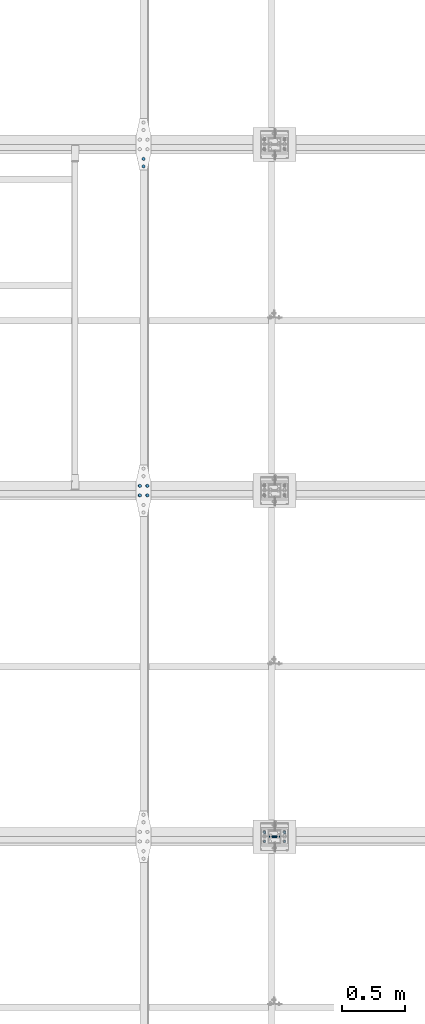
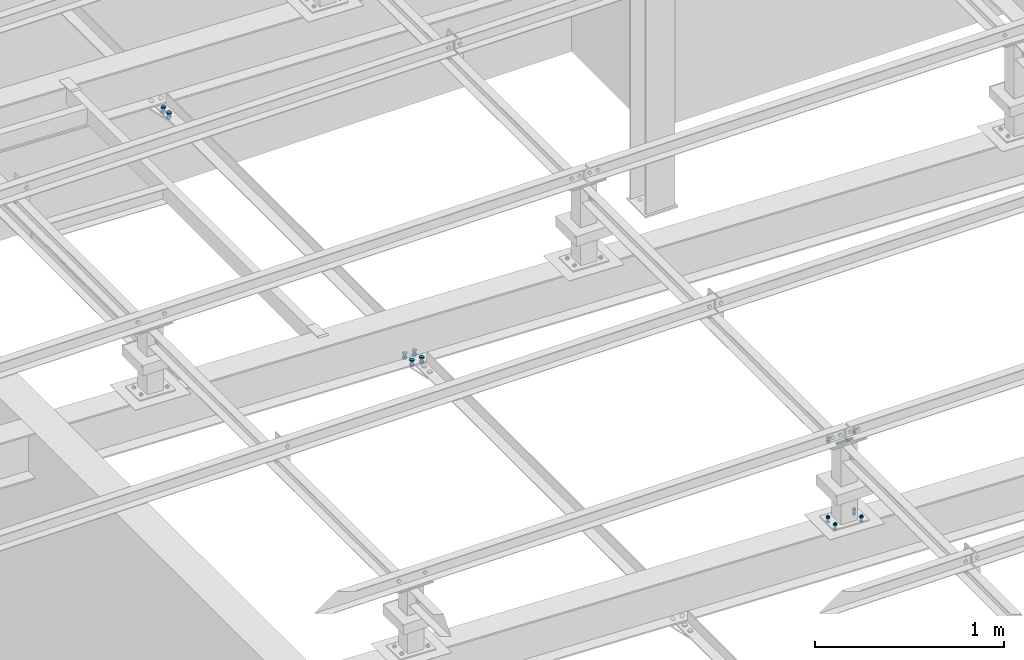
# One storey, part 188 of 3134: 5 mechanical fasteners, 4 elements without a shape of their own.
"""IFC2X3 building model written with IfcOpenShell, lengths in millimetres."""

from ifc_helpers import new_model, si_unit, frame, origin_with_axes, place, context, subcontext, project, spatial, faceted_brep, source, transform, mapped, material, type_object, element, aggregate, save


model = new_model("IFC2X3")

# Units and contexts
model_context = context("Model", 3, precision=1e-05, world=origin_with_axes())
body_context = subcontext(model_context, "Body", "Model", "MODEL_VIEW")
ifc_project = project(units=[si_unit("LENGTHUNIT", "METRE", prefix="MILLI"), si_unit("AREAUNIT", "SQUARE_METRE"), si_unit("VOLUMEUNIT", "CUBIC_METRE"), si_unit("MASSUNIT", "GRAM", prefix="KILO"), si_unit("TIMEUNIT", "SECOND"), si_unit("PLANEANGLEUNIT", "RADIAN"), si_unit("SOLIDANGLEUNIT", "STERADIAN"), si_unit("THERMODYNAMICTEMPERATUREUNIT", "DEGREE_CELSIUS"), si_unit("LUMINOUSINTENSITYUNIT", "LUMEN")], contexts=[model_context])

# Site, building, storey
site_placement = place(None, origin_with_axes())
site = spatial("IfcSite", under=ifc_project, at=site_placement, CompositionType="ELEMENT")
building_placement = place(site_placement, origin_with_axes())
building = spatial("IfcBuilding", under=site, at=building_placement, Name="Undefined", CompositionType="ELEMENT")
storey_placement = place(building_placement, origin_with_axes())
storey = spatial("IfcBuildingStorey", under=building, at=storey_placement, Name="Undefined", CompositionType="ELEMENT", Elevation=0.0)

# Assembly, mechanical fastener
assembly_1_placement = place(storey_placement, origin_with_axes())
assembly_1 = element("IfcElementAssembly", 1, at=assembly_1_placement, inside=storey, AssemblyPlace="NOTDEFINED", PredefinedType="RIGID_FRAME")
ifc_material = material(Name="8.8")
mechanical_fastener_type = type_object("IfcMechanicalFastenerType", Name="Bolt assembly")
shared_shape_1 = source(origin_with_axes(), body_context, "Body", "Brep", [
    faceted_brep([(10.9696551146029, -14.0, 0.0), (5.48482755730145, -14.0, 9.5), (-5.48482755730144, -14.0, 9.5), (-10.9696551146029, -14.0, 1.34339530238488e-15), (-5.48482755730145, -14.0, -9.5), (5.48482755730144, -14.0, -9.50000000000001), (5.48482755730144, -6.0, -9.50000000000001), (-5.48482755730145, -6.0, -9.5), (-10.9696551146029, -6.0, 1.34339530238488e-15), (-5.48482755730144, -6.0, 9.5), (5.48482755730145, -6.0, 9.5), (10.9696551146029, -6.0, 0.0), (6.0, -6.0, 0.0), (5.19615242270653, -6.0, 3.00000000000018), (2.99999999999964, -6.0, 5.19615242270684), (-6.21801588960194e-13, -6.0, 6.0), (-3.00000000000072, -6.0, 5.19615242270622), (-5.19615242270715, -6.0, 2.9999999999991), (-6.0, -6.0, -1.24360317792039e-12), (-5.19615242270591, -6.0, -3.00000000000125), (-2.99999999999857, -6.0, -5.19615242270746), (1.85874342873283e-12, -6.0, -6.0), (3.00000000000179, -6.0, -5.1961524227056), (5.19615242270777, -6.0, -2.99999999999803), (5.19615242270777, 24.0, -2.99999999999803), (3.00000000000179, 24.0, -5.1961524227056), (1.85874342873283e-12, 24.0, -6.0), (-2.99999999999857, 24.0, -5.19615242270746), (-5.19615242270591, 24.0, -3.00000000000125), (-6.0, 24.0, -1.24360317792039e-12), (-5.19615242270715, 24.0, 2.9999999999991), (-3.00000000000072, 24.0, 5.19615242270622), (-6.21801588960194e-13, 24.0, 6.0), (2.99999999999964, 24.0, 5.19615242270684), (5.19615242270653, 24.0, 3.00000000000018), (6.0, 24.0, 0.0), (10.9696551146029, 6.00000000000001, 0.0), (5.48482755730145, 6.00000000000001, 9.5), (-5.48482755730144, 6.00000000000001, 9.5), (-10.9696551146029, 6.00000000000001, 1.34339530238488e-15), (-5.48482755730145, 6.00000000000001, -9.5), (5.48482755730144, 6.00000000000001, -9.50000000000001), (5.48482755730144, 16.0, -9.50000000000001), (-5.48482755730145, 16.0, -9.5), (-10.9696551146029, 16.0, 1.34339530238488e-15), (-5.48482755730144, 16.0, 9.5), (5.48482755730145, 16.0, 9.5), (10.9696551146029, 16.0, 0.0)], [[[0, 1, 2, 3, 4, 5]], [[6, 7, 8, 9, 10, 11]], [[0, 11, 10, 1]], [[1, 10, 9, 2]], [[2, 9, 8, 3]], [[3, 8, 7, 4]], [[4, 7, 6, 5]], [[5, 6, 11, 0]], [[12, 13, 14, 15, 16, 17, 18, 19, 20, 21, 22, 23]], [[24, 25, 26, 27, 28, 29, 30, 31, 32, 33, 34, 35]], [[12, 35, 34, 13]], [[13, 34, 33, 14]], [[14, 33, 32, 15]], [[15, 32, 31, 16]], [[16, 31, 30, 17]], [[17, 30, 29, 18]], [[18, 29, 28, 19]], [[19, 28, 27, 20]], [[20, 27, 26, 21]], [[21, 26, 25, 22]], [[22, 25, 24, 23]], [[23, 24, 35, 12]], [[36, 37, 38, 39, 40, 41]], [[42, 43, 44, 45, 46, 47]], [[36, 47, 46, 37]], [[37, 46, 45, 38]], [[38, 45, 44, 39]], [[39, 44, 43, 40]], [[40, 43, 42, 41]], [[41, 42, 47, 36]]]),
    faceted_brep([(7.0, -0.1, 0.0), (6.06217782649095, -0.1, 3.50000000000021), (3.49999999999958, -0.1, 6.06217782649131), (-7.25435187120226e-13, -0.1, 7.0), (-3.50000000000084, -0.1, 6.06217782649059), (-6.06217782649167, -0.1, 3.49999999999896), (-7.0, -0.1, -1.45087037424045e-12), (-6.06217782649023, -0.1, -3.50000000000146), (-3.49999999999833, -0.1, -6.06217782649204), (2.1685340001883e-12, -0.1, -7.0), (3.50000000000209, -0.1, -6.06217782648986), (6.0621778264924, -0.1, -3.4999999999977), (6.0621778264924, 6.00000000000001, -3.4999999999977), (3.50000000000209, 6.00000000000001, -6.06217782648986), (2.1685340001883e-12, 6.00000000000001, -7.0), (-3.49999999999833, 6.00000000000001, -6.06217782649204), (-6.06217782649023, 6.00000000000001, -3.50000000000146), (-7.0, 6.00000000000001, -1.45087037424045e-12), (-6.06217782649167, 6.00000000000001, 3.49999999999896), (-3.50000000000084, 6.00000000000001, 6.06217782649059), (-7.25435187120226e-13, 6.00000000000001, 7.0), (3.49999999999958, 6.00000000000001, 6.06217782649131), (6.06217782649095, 6.00000000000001, 3.50000000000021), (7.0, 6.00000000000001, 0.0), (7.0, -5.9, 0.0), (6.06217782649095, -5.9, 3.50000000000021), (3.49999999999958, -5.9, 6.06217782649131), (-7.25435187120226e-13, -5.9, 7.0), (-3.50000000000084, -5.9, 6.06217782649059), (-6.06217782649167, -5.9, 3.49999999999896), (-7.0, -5.9, -1.45087037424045e-12), (-6.06217782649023, -5.9, -3.50000000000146), (-3.49999999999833, -5.9, -6.06217782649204), (2.1685340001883e-12, -5.9, -7.0), (3.50000000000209, -5.9, -6.06217782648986), (6.0621778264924, -5.9, -3.4999999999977), (6.0621778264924, 0.0999999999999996, -3.4999999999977), (3.50000000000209, 0.0999999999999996, -6.06217782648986), (2.1685340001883e-12, 0.0999999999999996, -7.0), (-3.49999999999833, 0.0999999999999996, -6.06217782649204), (-6.06217782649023, 0.0999999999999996, -3.50000000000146), (-7.0, 0.0999999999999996, -1.45087037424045e-12), (-6.06217782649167, 0.0999999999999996, 3.49999999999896), (-3.50000000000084, 0.0999999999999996, 6.06217782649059), (-7.25435187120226e-13, 0.0999999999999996, 7.0), (3.49999999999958, 0.0999999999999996, 6.06217782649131), (6.06217782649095, 0.0999999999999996, 3.50000000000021), (7.0, 0.0999999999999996, 0.0)], [[[0, 1, 2, 3, 4, 5, 6, 7, 8, 9, 10, 11]], [[12, 13, 14, 15, 16, 17, 18, 19, 20, 21, 22, 23]], [[0, 23, 22, 1]], [[1, 22, 21, 2]], [[2, 21, 20, 3]], [[3, 20, 19, 4]], [[4, 19, 18, 5]], [[5, 18, 17, 6]], [[6, 17, 16, 7]], [[7, 16, 15, 8]], [[8, 15, 14, 9]], [[9, 14, 13, 10]], [[10, 13, 12, 11]], [[11, 12, 23, 0]], [[24, 25, 26, 27, 28, 29, 30, 31, 32, 33, 34, 35]], [[36, 37, 38, 39, 40, 41, 42, 43, 44, 45, 46, 47]], [[24, 47, 46, 25]], [[25, 46, 45, 26]], [[26, 45, 44, 27]], [[27, 44, 43, 28]], [[28, 43, 42, 29]], [[29, 42, 41, 30]], [[30, 41, 40, 31]], [[31, 40, 39, 32]], [[32, 39, 38, 33]], [[33, 38, 37, 34]], [[34, 37, 36, 35]], [[35, 36, 47, 24]]]),
])
mechanical_fastener_1_placement = place(assembly_1_placement, frame((5691.67, 40285.0, 4365.0), z_axis=(1.0, 0.0, 0.0), x_axis=(0.0, -1.0, 0.0)))
mechanical_fastener_1 = element("IfcMechanicalFastener", 2, at=mechanical_fastener_1_placement, type_object=mechanical_fastener_type, material=ifc_material, Name="Bolt assembly", NominalDiameter=12.0, NominalLength=30.0, context=body_context, shape_type="MappedRepresentation", body=[
    mapped(shared_shape_1, transform((0.0, -5.32963895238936e-10, -79.9999999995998))),
    mapped(shared_shape_1, transform((0.0, 5.3114490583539e-10, 79.9999999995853))),
])
aggregate(assembly_1, [mechanical_fastener_1])

assembly_2_placement = place(storey_placement, origin_with_axes())
assembly_2 = element("IfcElementAssembly", 3, at=assembly_2_placement, inside=storey, AssemblyPlace="NOTDEFINED", PredefinedType="RIGID_FRAME")
shared_shape_2 = source(origin_with_axes(), body_context, "Body", "Brep", [
    faceted_brep([(13.856406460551, -21.0000017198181, 0.0), (6.92820323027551, -21.0000017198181, 12.0), (-6.92820323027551, -21.0000017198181, 12.0), (-13.856406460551, -21.0000017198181, 1.69692038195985e-15), (-6.92820323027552, -21.0000017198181, -12.0), (6.9282032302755, -21.0000017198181, -12.0), (6.9282032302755, -11.0000017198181, -12.0), (-6.92820323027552, -11.0000017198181, -12.0), (-13.856406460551, -11.0000017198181, 1.69692038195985e-15), (-6.92820323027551, -11.0000017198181, 12.0), (6.92820323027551, -11.0000017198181, 12.0), (13.856406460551, -11.0000017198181, 0.0), (8.0, -11.0000017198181, 0.0), (6.92820323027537, -11.0000017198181, 4.00000000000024), (3.99999999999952, -11.0000017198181, 6.92820323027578), (-8.29068785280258e-13, -11.0000017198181, 8.0), (-4.00000000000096, -11.0000017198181, 6.92820323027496), (-6.9282032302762, -11.0000017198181, 3.99999999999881), (-8.0, -11.0000017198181, -1.65813757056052e-12), (-6.92820323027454, -11.0000017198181, -4.00000000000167), (-3.99999999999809, -11.0000017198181, -6.92820323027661), (2.47832457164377e-12, -11.0000017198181, -8.0), (4.00000000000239, -11.0000017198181, -6.92820323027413), (6.92820323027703, -11.0000017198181, -3.99999999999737), (6.92820323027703, 23.9999999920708, -3.99999999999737), (4.00000000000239, 23.9999999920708, -6.92820323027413), (2.47832457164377e-12, 23.9999999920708, -8.0), (-3.99999999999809, 23.9999999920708, -6.92820323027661), (-6.92820323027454, 23.9999999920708, -4.00000000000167), (-8.0, 23.9999999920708, -1.65813757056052e-12), (-6.9282032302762, 23.9999999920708, 3.99999999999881), (-4.00000000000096, 23.9999999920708, 6.92820323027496), (-8.29068785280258e-13, 23.9999999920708, 8.0), (3.99999999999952, 23.9999999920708, 6.92820323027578), (6.92820323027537, 23.9999999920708, 4.00000000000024), (8.0, 23.9999999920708, 0.0), (13.856406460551, 3.99999999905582, 0.0), (6.92820323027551, 3.99999999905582, 12.0), (-6.92820323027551, 3.99999999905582, 12.0), (-13.856406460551, 3.99999999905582, 1.69692038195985e-15), (-6.92820323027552, 3.99999999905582, -12.0), (6.9282032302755, 3.99999999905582, -12.0), (6.9282032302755, 16.9999999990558, -12.0), (-6.92820323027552, 16.9999999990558, -12.0), (-13.856406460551, 16.9999999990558, 1.69692038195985e-15), (-6.92820323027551, 16.9999999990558, 12.0), (6.92820323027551, 16.9999999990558, 12.0), (13.856406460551, 16.9999999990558, 0.0)], [[[0, 1, 2, 3, 4, 5]], [[6, 7, 8, 9, 10, 11]], [[0, 11, 10, 1]], [[1, 10, 9, 2]], [[2, 9, 8, 3]], [[3, 8, 7, 4]], [[4, 7, 6, 5]], [[5, 6, 11, 0]], [[12, 13, 14, 15, 16, 17, 18, 19, 20, 21, 22, 23]], [[24, 25, 26, 27, 28, 29, 30, 31, 32, 33, 34, 35]], [[12, 35, 34, 13]], [[13, 34, 33, 14]], [[14, 33, 32, 15]], [[15, 32, 31, 16]], [[16, 31, 30, 17]], [[17, 30, 29, 18]], [[18, 29, 28, 19]], [[19, 28, 27, 20]], [[20, 27, 26, 21]], [[21, 26, 25, 22]], [[22, 25, 24, 23]], [[23, 24, 35, 12]], [[36, 37, 38, 39, 40, 41]], [[42, 43, 44, 45, 46, 47]], [[36, 47, 46, 37]], [[37, 46, 45, 38]], [[38, 45, 44, 39]], [[39, 44, 43, 40]], [[40, 43, 42, 41]], [[41, 42, 47, 36]]]),
    faceted_brep([(9.0, -4.10000000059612, 0.0), (7.79422863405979, -4.10000000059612, 4.50000000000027), (4.49999999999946, -4.10000000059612, 7.79422863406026), (-9.3270238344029e-13, -4.10000000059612, 9.0), (-4.50000000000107, -4.10000000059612, 7.79422863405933), (-7.79422863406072, -4.10000000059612, 4.49999999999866), (-9.0, -4.10000000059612, -1.86540476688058e-12), (-7.79422863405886, -4.10000000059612, -4.50000000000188), (-4.49999999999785, -4.10000000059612, -7.79422863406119), (2.78811514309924e-12, -4.10000000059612, -9.0), (4.50000000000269, -4.10000000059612, -7.7942286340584), (7.79422863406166, -4.10000000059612, -4.49999999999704), (7.79422863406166, 4.00000375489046, -4.49999999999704), (4.50000000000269, 4.00000375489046, -7.7942286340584), (2.78811514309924e-12, 4.00000375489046, -9.0), (-4.49999999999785, 4.00000375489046, -7.79422863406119), (-7.79422863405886, 4.00000375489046, -4.50000000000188), (-9.0, 4.00000375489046, -1.86540476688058e-12), (-7.79422863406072, 4.00000375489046, 4.49999999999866), (-4.50000000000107, 4.00000375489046, 7.79422863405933), (-9.3270238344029e-13, 4.00000375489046, 9.0), (4.49999999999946, 4.00000375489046, 7.79422863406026), (7.79422863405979, 4.00000375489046, 4.50000000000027), (9.0, 4.00000375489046, 0.0), (9.0, -10.9000017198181, 0.0), (7.79422863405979, -10.9000017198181, 4.50000000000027), (4.49999999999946, -10.9000017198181, 7.79422863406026), (-9.3270238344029e-13, -10.9000017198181, 9.0), (-4.50000000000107, -10.9000017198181, 7.79422863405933), (-7.79422863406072, -10.9000017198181, 4.49999999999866), (-9.0, -10.9000017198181, -1.86540476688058e-12), (-7.79422863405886, -10.9000017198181, -4.50000000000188), (-4.49999999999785, -10.9000017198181, -7.79422863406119), (2.78811514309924e-12, -10.9000017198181, -9.0), (4.50000000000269, -10.9000017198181, -7.7942286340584), (7.79422863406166, -10.9000017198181, -4.49999999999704), (7.79422863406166, -3.9, -4.49999999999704), (4.50000000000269, -3.9, -7.7942286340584), (2.78811514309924e-12, -3.9, -9.0), (-4.49999999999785, -3.9, -7.79422863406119), (-7.79422863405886, -3.9, -4.50000000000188), (-9.0, -3.9, -1.86540476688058e-12), (-7.79422863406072, -3.9, 4.49999999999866), (-4.50000000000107, -3.9, 7.79422863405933), (-9.3270238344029e-13, -3.9, 9.0), (4.49999999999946, -3.9, 7.79422863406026), (7.79422863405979, -3.9, 4.50000000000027), (9.0, -3.9, 0.0)], [[[0, 1, 2, 3, 4, 5, 6, 7, 8, 9, 10, 11]], [[12, 13, 14, 15, 16, 17, 18, 19, 20, 21, 22, 23]], [[0, 23, 22, 1]], [[1, 22, 21, 2]], [[2, 21, 20, 3]], [[3, 20, 19, 4]], [[4, 19, 18, 5]], [[5, 18, 17, 6]], [[6, 17, 16, 7]], [[7, 16, 15, 8]], [[8, 15, 14, 9]], [[9, 14, 13, 10]], [[10, 13, 12, 11]], [[11, 12, 23, 0]], [[24, 25, 26, 27, 28, 29, 30, 31, 32, 33, 34, 35]], [[36, 37, 38, 39, 40, 41, 42, 43, 44, 45, 46, 47]], [[24, 47, 46, 25]], [[25, 46, 45, 26]], [[26, 45, 44, 27]], [[27, 44, 43, 28]], [[28, 43, 42, 29]], [[29, 42, 41, 30]], [[30, 41, 40, 31]], [[31, 40, 39, 32]], [[32, 39, 38, 33]], [[33, 38, 37, 34]], [[34, 37, 36, 35]], [[35, 36, 47, 24]]]),
])
mechanical_fastener_2_placement = place(assembly_2_placement, frame((4647.50483526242, 45591.67, 3576.15051900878), z_axis=(-0.999388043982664, 0.0, 0.0349791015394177), x_axis=(0.0, 1.0, 0.0)))
mechanical_fastener_2 = element("IfcMechanicalFastener", 4, at=mechanical_fastener_2_placement, type_object=mechanical_fastener_type, material=ifc_material, Name="Bolt assembly", NominalDiameter=16.0, NominalLength=35.0, context=body_context, shape_type="MappedRepresentation", body=[
    mapped(shared_shape_2, transform((0.0, 0.0, 0.0))),
    mapped(shared_shape_2, transform((59.9999999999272, 0.0, 5.40239852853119e-10))),
])
aggregate(assembly_2, [mechanical_fastener_2])

assembly_3_placement = place(storey_placement, origin_with_axes())
assembly_3 = element("IfcElementAssembly", 5, at=assembly_3_placement, inside=storey, Name="PL8", AssemblyPlace="NOTDEFINED", PredefinedType="RIGID_FRAME")
shared_shape_3 = source(origin_with_axes(), body_context, "Body", "Brep", [
    faceted_brep([(13.856406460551, -23.2000817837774, 0.0), (6.92820323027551, -23.2000817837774, 12.0), (-6.92820323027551, -23.2000817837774, 12.0), (-13.856406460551, -23.2000817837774, 1.69692038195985e-15), (-6.92820323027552, -23.2000817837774, -12.0), (6.9282032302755, -23.2000817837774, -12.0), (6.9282032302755, -13.2000817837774, -12.0), (-6.92820323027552, -13.2000817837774, -12.0), (-13.856406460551, -13.2000817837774, 1.69692038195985e-15), (-6.92820323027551, -13.2000817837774, 12.0), (6.92820323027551, -13.2000817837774, 12.0), (13.856406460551, -13.2000817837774, 0.0), (8.0, -13.2000817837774, 0.0), (6.92820323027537, -13.2000817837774, 4.00000000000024), (3.99999999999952, -13.2000817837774, 6.92820323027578), (-8.29068785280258e-13, -13.2000817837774, 8.0), (-4.00000000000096, -13.2000817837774, 6.92820323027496), (-6.9282032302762, -13.2000817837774, 3.99999999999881), (-8.0, -13.2000817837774, -1.65813757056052e-12), (-6.92820323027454, -13.2000817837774, -4.00000000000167), (-3.99999999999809, -13.2000817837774, -6.92820323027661), (2.47832457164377e-12, -13.2000817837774, -8.0), (4.00000000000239, -13.2000817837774, -6.92820323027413), (6.92820323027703, -13.2000817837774, -3.99999999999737), (6.92820323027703, 21.7999182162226, -3.99999999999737), (4.00000000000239, 21.7999182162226, -6.92820323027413), (2.47832457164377e-12, 21.7999182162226, -8.0), (-3.99999999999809, 21.7999182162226, -6.92820323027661), (-6.92820323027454, 21.7999182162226, -4.00000000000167), (-8.0, 21.7999182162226, -1.65813757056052e-12), (-6.9282032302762, 21.7999182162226, 3.99999999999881), (-4.00000000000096, 21.7999182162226, 6.92820323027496), (-8.29068785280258e-13, 21.7999182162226, 8.0), (3.99999999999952, 21.7999182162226, 6.92820323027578), (6.92820323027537, 21.7999182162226, 4.00000000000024), (8.0, 21.7999182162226, 0.0), (13.856406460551, 3.99999999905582, 0.0), (6.92820323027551, 3.99999999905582, 12.0), (-6.92820323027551, 3.99999999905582, 12.0), (-13.856406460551, 3.99999999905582, 1.69692038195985e-15), (-6.92820323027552, 3.99999999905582, -12.0), (6.9282032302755, 3.99999999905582, -12.0), (6.9282032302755, 16.9999999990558, -12.0), (-6.92820323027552, 16.9999999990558, -12.0), (-13.856406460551, 16.9999999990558, 1.69692038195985e-15), (-6.92820323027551, 16.9999999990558, 12.0), (6.92820323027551, 16.9999999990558, 12.0), (13.856406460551, 16.9999999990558, 0.0)], [[[0, 1, 2, 3, 4, 5]], [[6, 7, 8, 9, 10, 11]], [[0, 11, 10, 1]], [[1, 10, 9, 2]], [[2, 9, 8, 3]], [[3, 8, 7, 4]], [[4, 7, 6, 5]], [[5, 6, 11, 0]], [[12, 13, 14, 15, 16, 17, 18, 19, 20, 21, 22, 23]], [[24, 25, 26, 27, 28, 29, 30, 31, 32, 33, 34, 35]], [[12, 35, 34, 13]], [[13, 34, 33, 14]], [[14, 33, 32, 15]], [[15, 32, 31, 16]], [[16, 31, 30, 17]], [[17, 30, 29, 18]], [[18, 29, 28, 19]], [[19, 28, 27, 20]], [[20, 27, 26, 21]], [[21, 26, 25, 22]], [[22, 25, 24, 23]], [[23, 24, 35, 12]], [[36, 37, 38, 39, 40, 41]], [[42, 43, 44, 45, 46, 47]], [[36, 47, 46, 37]], [[37, 46, 45, 38]], [[38, 45, 44, 39]], [[39, 44, 43, 40]], [[40, 43, 42, 41]], [[41, 42, 47, 36]]]),
    faceted_brep([(9.0, -13.1000817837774, 0.0), (7.79422863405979, -13.1000817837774, 4.50000000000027), (4.49999999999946, -13.1000817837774, 7.79422863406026), (-9.3270238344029e-13, -13.1000817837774, 9.0), (-4.50000000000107, -13.1000817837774, 7.79422863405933), (-7.79422863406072, -13.1000817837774, 4.49999999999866), (-9.0, -13.1000817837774, -1.86540476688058e-12), (-7.79422863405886, -13.1000817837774, -4.50000000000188), (-4.49999999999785, -13.1000817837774, -7.79422863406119), (2.78811514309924e-12, -13.1000817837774, -9.0), (4.50000000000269, -13.1000817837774, -7.7942286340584), (7.79422863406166, -13.1000817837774, -4.49999999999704), (7.79422863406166, -3.90008197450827, -4.49999999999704), (4.50000000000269, -3.90008197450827, -7.7942286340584), (2.78811514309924e-12, -3.90008197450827, -9.0), (-4.49999999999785, -3.90008197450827, -7.79422863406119), (-7.79422863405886, -3.90008197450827, -4.50000000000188), (-9.0, -3.90008197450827, -1.86540476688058e-12), (-7.79422863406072, -3.90008197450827, 4.49999999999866), (-4.50000000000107, -3.90008197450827, 7.79422863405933), (-9.3270238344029e-13, -3.90008197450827, 9.0), (4.49999999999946, -3.90008197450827, 7.79422863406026), (7.79422863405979, -3.90008197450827, 4.50000000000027), (9.0, -3.90008197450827, 0.0), (9.0, -4.10000000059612, 0.0), (7.79422863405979, -4.10000000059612, 4.50000000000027), (4.49999999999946, -4.10000000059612, 7.79422863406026), (-9.3270238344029e-13, -4.10000000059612, 9.0), (-4.50000000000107, -4.10000000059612, 7.79422863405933), (-7.79422863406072, -4.10000000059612, 4.49999999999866), (-9.0, -4.10000000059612, -1.86540476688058e-12), (-7.79422863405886, -4.10000000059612, -4.50000000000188), (-4.49999999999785, -4.10000000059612, -7.79422863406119), (2.78811514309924e-12, -4.10000000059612, -9.0), (4.50000000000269, -4.10000000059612, -7.7942286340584), (7.79422863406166, -4.10000000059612, -4.49999999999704), (7.79422863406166, 4.00000375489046, -4.49999999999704), (4.50000000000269, 4.00000375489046, -7.7942286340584), (2.78811514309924e-12, 4.00000375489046, -9.0), (-4.49999999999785, 4.00000375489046, -7.79422863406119), (-7.79422863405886, 4.00000375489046, -4.50000000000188), (-9.0, 4.00000375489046, -1.86540476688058e-12), (-7.79422863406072, 4.00000375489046, 4.49999999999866), (-4.50000000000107, 4.00000375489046, 7.79422863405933), (-9.3270238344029e-13, 4.00000375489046, 9.0), (4.49999999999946, 4.00000375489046, 7.79422863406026), (7.79422863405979, 4.00000375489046, 4.50000000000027), (9.0, 4.00000375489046, 0.0)], [[[0, 1, 2, 3, 4, 5, 6, 7, 8, 9, 10, 11]], [[12, 13, 14, 15, 16, 17, 18, 19, 20, 21, 22, 23]], [[0, 23, 22, 1]], [[1, 22, 21, 2]], [[2, 21, 20, 3]], [[3, 20, 19, 4]], [[4, 19, 18, 5]], [[5, 18, 17, 6]], [[6, 17, 16, 7]], [[7, 16, 15, 8]], [[8, 15, 14, 9]], [[9, 14, 13, 10]], [[10, 13, 12, 11]], [[11, 12, 23, 0]], [[24, 25, 26, 27, 28, 29, 30, 31, 32, 33, 34, 35]], [[36, 37, 38, 39, 40, 41, 42, 43, 44, 45, 46, 47]], [[24, 47, 46, 25]], [[25, 46, 45, 26]], [[26, 45, 44, 27]], [[27, 44, 43, 28]], [[28, 43, 42, 29]], [[29, 42, 41, 30]], [[30, 41, 40, 31]], [[31, 40, 39, 32]], [[32, 39, 38, 33]], [[33, 38, 37, 34]], [[34, 37, 36, 35]], [[35, 36, 47, 24]]]),
])
mechanical_fastener_3_placement = place(assembly_3_placement, frame((4647.50483519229, 42970.33, 3576.15051900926), z_axis=(-0.999388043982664, 0.0, 0.0349791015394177), x_axis=(0.0, 1.0, 0.0)))
mechanical_fastener_3 = element("IfcMechanicalFastener", 6, at=mechanical_fastener_3_placement, type_object=mechanical_fastener_type, material=ifc_material, Name="Bolt assembly", NominalDiameter=16.0, NominalLength=35.0, context=body_context, shape_type="MappedRepresentation", body=[
    mapped(shared_shape_3, transform((0.0, 4.54747350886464e-13, -30.0000000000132))),
    mapped(shared_shape_3, transform((76.0, -2.00088834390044e-10, -29.9999999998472))),
    mapped(shared_shape_3, transform((0.0, 4.54747350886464e-13, 30.0000000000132))),
    mapped(shared_shape_3, transform((76.0, 1.98269844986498e-10, 29.9999999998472))),
])
aggregate(assembly_3, [mechanical_fastener_3])

# Assembly, mechanical fasteners
assembly_4_placement = place(storey_placement, origin_with_axes())
assembly_4 = element("IfcElementAssembly", 7, at=assembly_4_placement, inside=storey, AssemblyPlace="NOTDEFINED", PredefinedType="RIGID_FRAME")
shared_shape_4 = source(origin_with_axes(), body_context, "Body", "Brep", [
    faceted_brep([(10.9696551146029, -4.18280906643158, 0.0), (5.48482755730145, -4.18280906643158, 9.5), (-5.48482755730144, -4.18280906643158, 9.5), (-10.9696551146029, -4.18280906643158, 1.34339530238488e-15), (-5.48482755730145, -4.18280906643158, -9.5), (5.48482755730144, -4.18280906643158, -9.50000000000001), (5.48482755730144, 3.81719093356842, -9.50000000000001), (-5.48482755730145, 3.81719093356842, -9.5), (-10.9696551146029, 3.81719093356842, 1.34339530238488e-15), (-5.48482755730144, 3.81719093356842, 9.5), (5.48482755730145, 3.81719093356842, 9.5), (10.9696551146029, 3.81719093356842, 0.0), (6.0, 3.81719093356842, 0.0), (5.19615242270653, 3.81719093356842, 3.00000000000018), (2.99999999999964, 3.81719093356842, 5.19615242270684), (-6.21801588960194e-13, 3.81719093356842, 6.0), (-3.00000000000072, 3.81719093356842, 5.19615242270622), (-5.19615242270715, 3.81719093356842, 2.9999999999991), (-6.0, 3.81719093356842, -1.24360317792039e-12), (-5.19615242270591, 3.81719093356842, -3.00000000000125), (-2.99999999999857, 3.81719093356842, -5.19615242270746), (1.85874342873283e-12, 3.81719093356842, -6.0), (3.00000000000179, 3.81719093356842, -5.1961524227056), (5.19615242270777, 3.81719093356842, -2.99999999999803), (5.19615242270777, 38.8171909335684, -2.99999999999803), (3.00000000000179, 38.8171909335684, -5.1961524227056), (1.85874342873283e-12, 38.8171909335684, -6.0), (-2.99999999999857, 38.8171909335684, -5.19615242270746), (-5.19615242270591, 38.8171909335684, -3.00000000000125), (-6.0, 38.8171909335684, -1.24360317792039e-12), (-5.19615242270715, 38.8171909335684, 2.9999999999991), (-3.00000000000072, 38.8171909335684, 5.19615242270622), (-6.21801588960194e-13, 38.8171909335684, 6.0), (2.99999999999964, 38.8171909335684, 5.19615242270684), (5.19615242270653, 38.8171909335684, 3.00000000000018), (6.0, 38.8171909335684, 0.0), (10.9696551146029, 23.0139082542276, 0.0), (5.48482755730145, 23.0139082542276, 9.5), (-5.48482755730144, 23.0139082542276, 9.5), (-10.9696551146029, 23.0139082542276, 1.34339530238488e-15), (-5.48482755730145, 23.0139082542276, -9.5), (5.48482755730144, 23.0139082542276, -9.50000000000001), (5.48482755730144, 33.0139082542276, -9.50000000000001), (-5.48482755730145, 33.0139082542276, -9.5), (-10.9696551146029, 33.0139082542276, 1.34339530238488e-15), (-5.48482755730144, 33.0139082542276, 9.5), (5.48482755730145, 33.0139082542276, 9.5), (10.9696551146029, 33.0139082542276, 0.0)], [[[0, 1, 2, 3, 4, 5]], [[6, 7, 8, 9, 10, 11]], [[0, 11, 10, 1]], [[1, 10, 9, 2]], [[2, 9, 8, 3]], [[3, 8, 7, 4]], [[4, 7, 6, 5]], [[5, 6, 11, 0]], [[12, 13, 14, 15, 16, 17, 18, 19, 20, 21, 22, 23]], [[24, 25, 26, 27, 28, 29, 30, 31, 32, 33, 34, 35]], [[12, 35, 34, 13]], [[13, 34, 33, 14]], [[14, 33, 32, 15]], [[15, 32, 31, 16]], [[16, 31, 30, 17]], [[17, 30, 29, 18]], [[18, 29, 28, 19]], [[19, 28, 27, 20]], [[20, 27, 26, 21]], [[21, 26, 25, 22]], [[22, 25, 24, 23]], [[23, 24, 35, 12]], [[36, 37, 38, 39, 40, 41]], [[42, 43, 44, 45, 46, 47]], [[36, 47, 46, 37]], [[37, 46, 45, 38]], [[38, 45, 44, 39]], [[39, 44, 43, 40]], [[40, 43, 42, 41]], [[41, 42, 47, 36]]]),
    faceted_brep([(7.0, 3.91719093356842, 0.0), (6.06217782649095, 3.91719093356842, 3.50000000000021), (3.49999999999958, 3.91719093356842, 6.06217782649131), (-7.25435187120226e-13, 3.91719093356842, 7.0), (-3.50000000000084, 3.91719093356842, 6.06217782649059), (-6.06217782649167, 3.91719093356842, 3.49999999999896), (-7.0, 3.91719093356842, -1.45087037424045e-12), (-6.06217782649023, 3.91719093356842, -3.50000000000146), (-3.49999999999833, 3.91719093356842, -6.06217782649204), (2.1685340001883e-12, 3.91719093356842, -7.0), (3.50000000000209, 3.91719093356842, -6.06217782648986), (6.0621778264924, 3.91719093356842, -3.4999999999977), (6.0621778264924, 13.1171907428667, -3.4999999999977), (3.50000000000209, 13.1171907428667, -6.06217782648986), (2.1685340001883e-12, 13.1171907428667, -7.0), (-3.49999999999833, 13.1171907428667, -6.06217782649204), (-6.06217782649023, 13.1171907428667, -3.50000000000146), (-7.0, 13.1171907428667, -1.45087037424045e-12), (-6.06217782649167, 13.1171907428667, 3.49999999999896), (-3.50000000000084, 13.1171907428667, 6.06217782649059), (-7.25435187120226e-13, 13.1171907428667, 7.0), (3.49999999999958, 13.1171907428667, 6.06217782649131), (6.06217782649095, 13.1171907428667, 3.50000000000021), (7.0, 13.1171907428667, 0.0), (7.0, 14.9139082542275, 0.0), (6.06217782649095, 14.9139082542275, 3.50000000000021), (3.49999999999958, 14.9139082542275, 6.06217782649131), (-7.25435187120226e-13, 14.9139082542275, 7.0), (-3.50000000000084, 14.9139082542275, 6.06217782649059), (-6.06217782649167, 14.9139082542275, 3.49999999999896), (-7.0, 14.9139082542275, -1.45087037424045e-12), (-6.06217782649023, 14.9139082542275, -3.50000000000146), (-3.49999999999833, 14.9139082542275, -6.06217782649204), (2.1685340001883e-12, 14.9139082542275, -7.0), (3.50000000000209, 14.9139082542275, -6.06217782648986), (6.0621778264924, 14.9139082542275, -3.4999999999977), (6.0621778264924, 23.0139082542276, -3.4999999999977), (3.50000000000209, 23.0139082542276, -6.06217782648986), (2.1685340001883e-12, 23.0139082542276, -7.0), (-3.49999999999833, 23.0139082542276, -6.06217782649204), (-6.06217782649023, 23.0139082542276, -3.50000000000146), (-7.0, 23.0139082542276, -1.45087037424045e-12), (-6.06217782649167, 23.0139082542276, 3.49999999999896), (-3.50000000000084, 23.0139082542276, 6.06217782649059), (-7.25435187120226e-13, 23.0139082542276, 7.0), (3.49999999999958, 23.0139082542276, 6.06217782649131), (6.06217782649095, 23.0139082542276, 3.50000000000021), (7.0, 23.0139082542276, 0.0)], [[[0, 1, 2, 3, 4, 5, 6, 7, 8, 9, 10, 11]], [[12, 13, 14, 15, 16, 17, 18, 19, 20, 21, 22, 23]], [[0, 23, 22, 1]], [[1, 22, 21, 2]], [[2, 21, 20, 3]], [[3, 20, 19, 4]], [[4, 19, 18, 5]], [[5, 18, 17, 6]], [[6, 17, 16, 7]], [[7, 16, 15, 8]], [[8, 15, 14, 9]], [[9, 14, 13, 10]], [[10, 13, 12, 11]], [[11, 12, 23, 0]], [[24, 25, 26, 27, 28, 29, 30, 31, 32, 33, 34, 35]], [[36, 37, 38, 39, 40, 41, 42, 43, 44, 45, 46, 47]], [[24, 47, 46, 25]], [[25, 46, 45, 26]], [[26, 45, 44, 27]], [[27, 44, 43, 28]], [[28, 43, 42, 29]], [[29, 42, 41, 30]], [[30, 41, 40, 31]], [[31, 40, 39, 32]], [[32, 39, 38, 33]], [[33, 38, 37, 34]], [[34, 37, 36, 35]], [[35, 36, 47, 24]]]),
])
mechanical_fastener_4_placement = place(assembly_4_placement, frame((5690.86474073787, 40287.9999999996, 3827.79222028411), z_axis=(-0.999387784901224, 0.0, 0.0349865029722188), x_axis=(0.0, -1.0, 0.0)))
mechanical_fastener_4 = element("IfcMechanicalFastener", 8, at=mechanical_fastener_4_placement, type_object=mechanical_fastener_type, material=ifc_material, Name="Bolt assembly", NominalDiameter=12.0, NominalLength=35.0, context=body_context, shape_type="MappedRepresentation", body=[
    mapped(shared_shape_4, transform((0.0, -5.32963895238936e-10, -79.9999999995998))),
    mapped(shared_shape_4, transform((76.0, -5.32963895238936e-10, -79.9999999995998))),
    mapped(shared_shape_4, transform((0.0, 5.3114490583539e-10, 79.9999999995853))),
    mapped(shared_shape_4, transform((76.0, 5.3114490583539e-10, 79.9999999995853))),
])
shared_shape_5 = source(origin_with_axes(), body_context, "Body", "Brep", [
    faceted_brep([(9.0, -50.0, 0.0), (7.79422863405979, -50.0, 4.50000000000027), (4.49999999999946, -50.0, 7.79422863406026), (-9.3270238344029e-13, -50.0, 9.0), (-4.50000000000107, -50.0, 7.79422863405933), (-7.79422863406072, -50.0, 4.49999999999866), (-9.0, -50.0, -1.86540476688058e-12), (-7.79422863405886, -50.0, -4.50000000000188), (-4.49999999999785, -50.0, -7.79422863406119), (2.78811514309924e-12, -50.0, -9.0), (4.50000000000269, -50.0, -7.7942286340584), (7.79422863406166, -50.0, -4.49999999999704), (7.79422863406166, 50.1, -4.49999999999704), (4.50000000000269, 50.1, -7.7942286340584), (2.78811514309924e-12, 50.1, -9.0), (-4.49999999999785, 50.1, -7.79422863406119), (-7.79422863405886, 50.1, -4.50000000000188), (-9.0, 50.1, -1.86540476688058e-12), (-7.79422863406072, 50.1, 4.49999999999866), (-4.50000000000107, 50.1, 7.79422863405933), (-9.3270238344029e-13, 50.1, 9.0), (4.49999999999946, 50.1, 7.79422863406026), (7.79422863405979, 50.1, 4.50000000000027), (9.0, 50.1, 0.0)], [[[0, 1, 2, 3, 4, 5, 6, 7, 8, 9, 10, 11]], [[12, 13, 14, 15, 16, 17, 18, 19, 20, 21, 22, 23]], [[0, 23, 22, 1]], [[1, 22, 21, 2]], [[2, 21, 20, 3]], [[3, 20, 19, 4]], [[4, 19, 18, 5]], [[5, 18, 17, 6]], [[6, 17, 16, 7]], [[7, 16, 15, 8]], [[8, 15, 14, 9]], [[9, 14, 13, 10]], [[10, 13, 12, 11]], [[11, 12, 23, 0]]]),
])
mechanical_fastener_5_placement = place(assembly_4_placement, frame((5691.67, 40250.0, 4345.0), z_axis=(0.0, 1.0, 0.0), x_axis=(0.0, 0.0, 1.0)))
mechanical_fastener_5 = element("IfcMechanicalFastener", 9, at=mechanical_fastener_5_placement, type_object=mechanical_fastener_type, material=ifc_material, Name="Bolt assembly", NominalDiameter=16.0, NominalLength=100.0, context=body_context, shape_type="MappedRepresentation", body=[
    mapped(shared_shape_5, transform((0.0, 0.0, 0.0))),
])
aggregate(assembly_4, [mechanical_fastener_4, mechanical_fastener_5])

save(model, "model.ifc")
